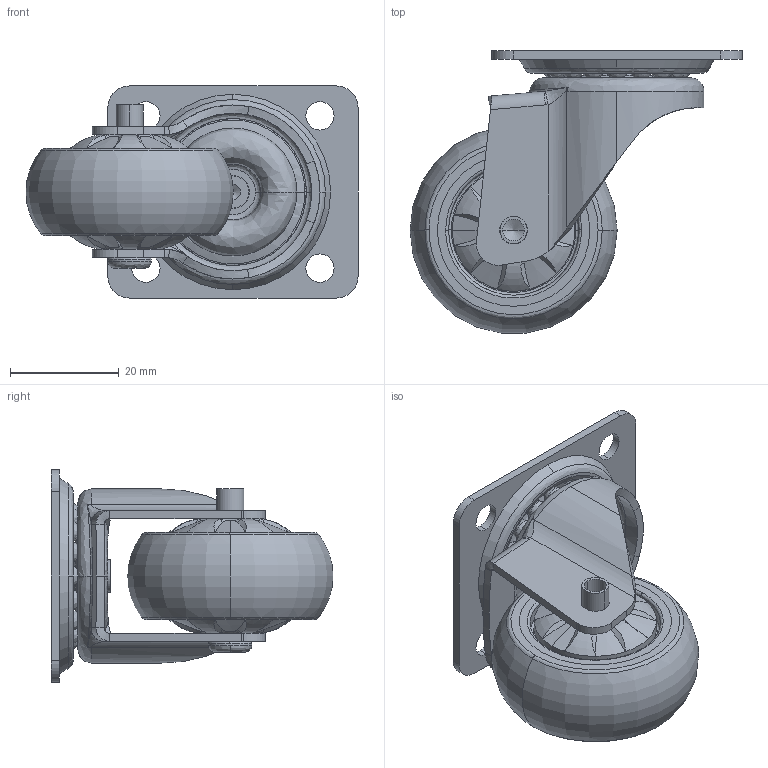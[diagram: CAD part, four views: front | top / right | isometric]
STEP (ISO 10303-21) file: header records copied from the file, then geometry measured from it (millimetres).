
FILE_DESCRIPTION (( 'STEP AP214' ), '1' );
FILE_NAME ('C08-01-38-421.STEP', '2025-10-01T09:38:25', ( '' ), ( '' ), 'SwSTEP 2.0', 'SolidWorks 2022', '' );
FILE_SCHEMA (( 'AUTOMOTIVE_DESIGN' ));
Length unit declared in the file: millimetre
Products named in the file (1): C08-01-38-421
Bounding box: 61.05 x 51.85 x 39 mm (x, y, z)
Volume: 21270 mm3; surface area: 25938 mm2
Topology: 25 solids, 25 shells, 610 faces, 1729 edges, 1056 vertices
Faces by surface type: bspline 236, plane 210, cylinder 102, cone 48, torus 14
Entity records: 34998 total; most frequent: CARTESIAN_POINT 13998, ORIENTED_EDGE 3226, DIRECTION 2519, EDGE_CURVE 1613, VERTEX_POINT 1056, AXIS2_PLACEMENT_3D 993, EDGE_LOOP 671, UNCERTAINTY_MEASURE_WITH_UNIT 637
